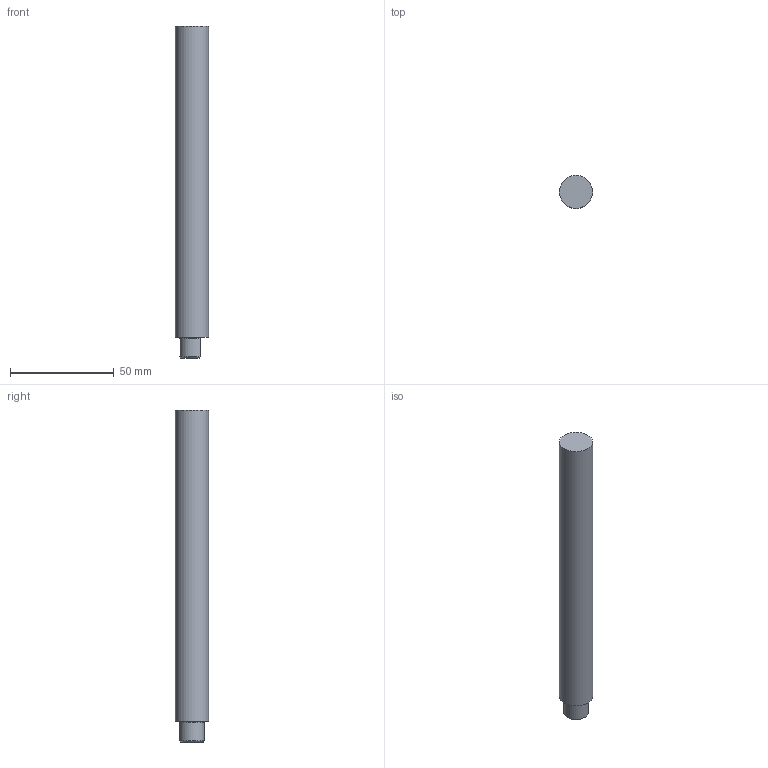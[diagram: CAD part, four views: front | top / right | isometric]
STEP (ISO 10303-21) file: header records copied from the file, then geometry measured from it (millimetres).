
FILE_DESCRIPTION (( 'STEP AP214' ), '1' );
FILE_NAME ('KKPHF Pin C_-_12-150.step', '2024-02-07T08:52:36', ( '' ), ( '' ), 'SwSTEP 2.0', 'SolidWorks 2020', '' );
FILE_SCHEMA (( 'AUTOMOTIVE_DESIGN' ));
Length unit declared in the file: millimetre
Products named in the file (1): KKPHF  Pin C_-_12-150
Bounding box: 16 x 16 x 159.9 mm (x, y, z)
Volume: 30854.7 mm3; surface area: 8520.7 mm2
Topology: 1 solids, 1 shells, 12 faces, 22 edges, 13 vertices
Faces by surface type: plane 5, cylinder 4, cone 2, torus 1
Full cylindrical faces by diameter (mm): 5 x1, 16 x1
Entity records: 323 total; most frequent: CARTESIAN_POINT 59, DIRECTION 48, ORIENTED_EDGE 36, AXIS2_PLACEMENT_3D 21, EDGE_CURVE 18, EDGE_LOOP 16, FACE_OUTER_BOUND 14, ADVANCED_FACE 12
